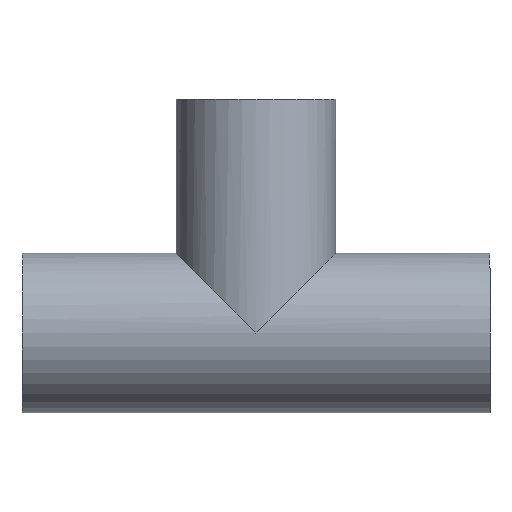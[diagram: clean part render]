
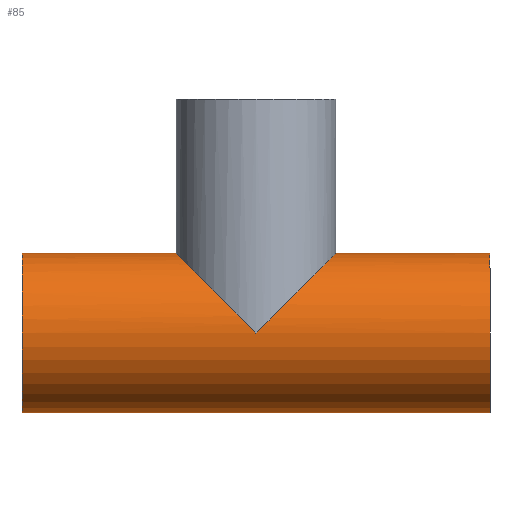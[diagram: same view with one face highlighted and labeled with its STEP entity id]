
A CAD part, front view. The second image highlights one B-rep face of the part: STEP entity #85.
In plain terms, the highlighted cylindrical face has radius 20.5 mm (diameter 41 mm), a full revolution.
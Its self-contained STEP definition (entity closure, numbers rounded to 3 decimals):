
#21 = EDGE_CURVE('',#22,#22,#24,.T.);
#22 = VERTEX_POINT('',#23);
#23 = CARTESIAN_POINT('',(-60.,0.,-20.5));
#24 = SURFACE_CURVE('',#25,(#30,#42),.PCURVE_S1.);
#25 = CIRCLE('',#26,20.5);
#26 = AXIS2_PLACEMENT_3D('',#27,#28,#29);
#27 = CARTESIAN_POINT('',(-60.,0.,0.));
#28 = DIRECTION('',(1.,-0.,0.));
#29 = DIRECTION('',(0.,0.,-1.));
#30 = PCURVE('',#31,#36);
#31 = PLANE('',#32);
#32 = AXIS2_PLACEMENT_3D('',#33,#34,#35);
#33 = CARTESIAN_POINT('',(-60.,0.,0.));
#34 = DIRECTION('',(1.,0.,0.));
#35 = DIRECTION('',(0.,0.,-1.));
#36 = DEFINITIONAL_REPRESENTATION('',(#37),#41);
#37 = CIRCLE('',#38,20.5);
#38 = AXIS2_PLACEMENT_2D('',#39,#40);
#39 = CARTESIAN_POINT('',(0.,0.));
#40 = DIRECTION('',(1.,0.));
#41 = ( GEOMETRIC_REPRESENTATION_CONTEXT(2) 
PARAMETRIC_REPRESENTATION_CONTEXT() REPRESENTATION_CONTEXT('2D SPACE',''
  ) );
#42 = PCURVE('',#43,#48);
#43 = CYLINDRICAL_SURFACE('',#44,20.5);
#44 = AXIS2_PLACEMENT_3D('',#45,#46,#47);
#45 = CARTESIAN_POINT('',(-60.,0.,0.));
#46 = DIRECTION('',(1.,0.,0.));
#47 = DIRECTION('',(0.,0.,-1.));
#48 = DEFINITIONAL_REPRESENTATION('',(#49),#53);
#49 = LINE('',#50,#51);
#50 = CARTESIAN_POINT('',(0.,0.));
#51 = VECTOR('',#52,1.);
#52 = DIRECTION('',(1.,0.));
#53 = ( GEOMETRIC_REPRESENTATION_CONTEXT(2) 
PARAMETRIC_REPRESENTATION_CONTEXT() REPRESENTATION_CONTEXT('2D SPACE',''
  ) );
#85 = ADVANCED_FACE('',(#86,#140),#43,.T.);
#86 = FACE_BOUND('',#87,.T.);
#87 = EDGE_LOOP('',(#88,#111,#138,#139));
#88 = ORIENTED_EDGE('',*,*,#89,.T.);
#89 = EDGE_CURVE('',#22,#90,#92,.T.);
#90 = VERTEX_POINT('',#91);
#91 = CARTESIAN_POINT('',(60.,0.,-20.5));
#92 = SEAM_CURVE('',#93,(#97,#104),.PCURVE_S1.);
#93 = LINE('',#94,#95);
#94 = CARTESIAN_POINT('',(-60.,0.,-20.5));
#95 = VECTOR('',#96,1.);
#96 = DIRECTION('',(1.,0.,0.));
#97 = PCURVE('',#43,#98);
#98 = DEFINITIONAL_REPRESENTATION('',(#99),#103);
#99 = LINE('',#100,#101);
#100 = CARTESIAN_POINT('',(6.283,-0.));
#101 = VECTOR('',#102,1.);
#102 = DIRECTION('',(0.,1.));
#103 = ( GEOMETRIC_REPRESENTATION_CONTEXT(2) 
PARAMETRIC_REPRESENTATION_CONTEXT() REPRESENTATION_CONTEXT('2D SPACE',''
  ) );
#104 = PCURVE('',#43,#105);
#105 = DEFINITIONAL_REPRESENTATION('',(#106),#110);
#106 = LINE('',#107,#108);
#107 = CARTESIAN_POINT('',(0.,-0.));
#108 = VECTOR('',#109,1.);
#109 = DIRECTION('',(0.,1.));
#110 = ( GEOMETRIC_REPRESENTATION_CONTEXT(2) 
PARAMETRIC_REPRESENTATION_CONTEXT() REPRESENTATION_CONTEXT('2D SPACE',''
  ) );
#111 = ORIENTED_EDGE('',*,*,#112,.F.);
#112 = EDGE_CURVE('',#90,#90,#113,.T.);
#113 = SURFACE_CURVE('',#114,(#119,#126),.PCURVE_S1.);
#114 = CIRCLE('',#115,20.5);
#115 = AXIS2_PLACEMENT_3D('',#116,#117,#118);
#116 = CARTESIAN_POINT('',(60.,0.,0.));
#117 = DIRECTION('',(1.,-0.,0.));
#118 = DIRECTION('',(0.,0.,-1.));
#119 = PCURVE('',#43,#120);
#120 = DEFINITIONAL_REPRESENTATION('',(#121),#125);
#121 = LINE('',#122,#123);
#122 = CARTESIAN_POINT('',(0.,120.));
#123 = VECTOR('',#124,1.);
#124 = DIRECTION('',(1.,0.));
#125 = ( GEOMETRIC_REPRESENTATION_CONTEXT(2) 
PARAMETRIC_REPRESENTATION_CONTEXT() REPRESENTATION_CONTEXT('2D SPACE',''
  ) );
#126 = PCURVE('',#127,#132);
#127 = PLANE('',#128);
#128 = AXIS2_PLACEMENT_3D('',#129,#130,#131);
#129 = CARTESIAN_POINT('',(60.,0.,0.));
#130 = DIRECTION('',(1.,0.,0.));
#131 = DIRECTION('',(0.,0.,-1.));
#132 = DEFINITIONAL_REPRESENTATION('',(#133),#137);
#133 = CIRCLE('',#134,20.5);
#134 = AXIS2_PLACEMENT_2D('',#135,#136);
#135 = CARTESIAN_POINT('',(0.,0.));
#136 = DIRECTION('',(1.,0.));
#137 = ( GEOMETRIC_REPRESENTATION_CONTEXT(2) 
PARAMETRIC_REPRESENTATION_CONTEXT() REPRESENTATION_CONTEXT('2D SPACE',''
  ) );
#138 = ORIENTED_EDGE('',*,*,#89,.F.);
#139 = ORIENTED_EDGE('',*,*,#21,.T.);
#140 = FACE_BOUND('',#141,.T.);
#141 = EDGE_LOOP('',(#142,#189,#225));
#142 = ORIENTED_EDGE('',*,*,#143,.F.);
#143 = EDGE_CURVE('',#144,#146,#148,.T.);
#144 = VERTEX_POINT('',#145);
#145 = CARTESIAN_POINT('',(0.,20.5,0.));
#146 = VERTEX_POINT('',#147);
#147 = CARTESIAN_POINT('',(0.,-20.5,0.));
#148 = SURFACE_CURVE('',#149,(#154,#169),.PCURVE_S1.);
#149 = ELLIPSE('',#150,28.991,20.5);
#150 = AXIS2_PLACEMENT_3D('',#151,#152,#153);
#151 = CARTESIAN_POINT('',(0.,0.,0.));
#152 = DIRECTION('',(0.707,-0.,0.707));
#153 = DIRECTION('',(0.707,0.,-0.707));
#154 = PCURVE('',#43,#155);
#155 = DEFINITIONAL_REPRESENTATION('',(#156),#168);
#156 = B_SPLINE_CURVE_WITH_KNOTS('',10,(#157,#158,#159,#160,#161,#162,
    #163,#164,#165,#166,#167),.UNSPECIFIED.,.F.,.F.,(11,11),(
    1.571,4.712),.PIECEWISE_BEZIER_KNOTS.);
#157 = CARTESIAN_POINT('',(1.571,60.));
#158 = CARTESIAN_POINT('',(1.885,53.56));
#159 = CARTESIAN_POINT('',(2.199,47.119));
#160 = CARTESIAN_POINT('',(2.513,41.562));
#161 = CARTESIAN_POINT('',(2.827,37.77));
#162 = CARTESIAN_POINT('',(3.142,36.419));
#163 = CARTESIAN_POINT('',(3.456,37.77));
#164 = CARTESIAN_POINT('',(3.77,41.562));
#165 = CARTESIAN_POINT('',(4.084,47.119));
#166 = CARTESIAN_POINT('',(4.398,53.56));
#167 = CARTESIAN_POINT('',(4.712,60.));
#168 = ( GEOMETRIC_REPRESENTATION_CONTEXT(2) 
PARAMETRIC_REPRESENTATION_CONTEXT() REPRESENTATION_CONTEXT('2D SPACE',''
  ) );
#169 = PCURVE('',#170,#175);
#170 = CYLINDRICAL_SURFACE('',#171,20.5);
#171 = AXIS2_PLACEMENT_3D('',#172,#173,#174);
#172 = CARTESIAN_POINT('',(0.,0.,0.));
#173 = DIRECTION('',(0.,0.,1.));
#174 = DIRECTION('',(1.,0.,0.));
#175 = DEFINITIONAL_REPRESENTATION('',(#176),#188);
#176 = B_SPLINE_CURVE_WITH_KNOTS('',10,(#177,#178,#179,#180,#181,#182,
    #183,#184,#185,#186,#187),.UNSPECIFIED.,.F.,.F.,(11,11),(
    1.571,4.712),.PIECEWISE_BEZIER_KNOTS.);
#177 = CARTESIAN_POINT('',(1.571,0.));
#178 = CARTESIAN_POINT('',(1.885,6.44));
#179 = CARTESIAN_POINT('',(2.199,12.881));
#180 = CARTESIAN_POINT('',(2.513,18.438));
#181 = CARTESIAN_POINT('',(2.827,22.23));
#182 = CARTESIAN_POINT('',(3.142,23.581));
#183 = CARTESIAN_POINT('',(3.456,22.23));
#184 = CARTESIAN_POINT('',(3.77,18.438));
#185 = CARTESIAN_POINT('',(4.084,12.881));
#186 = CARTESIAN_POINT('',(4.398,6.44));
#187 = CARTESIAN_POINT('',(4.712,0.));
#188 = ( GEOMETRIC_REPRESENTATION_CONTEXT(2) 
PARAMETRIC_REPRESENTATION_CONTEXT() REPRESENTATION_CONTEXT('2D SPACE',''
  ) );
#189 = ORIENTED_EDGE('',*,*,#190,.T.);
#190 = EDGE_CURVE('',#144,#191,#193,.T.);
#191 = VERTEX_POINT('',#192);
#192 = CARTESIAN_POINT('',(20.5,0.,20.5));
#193 = SURFACE_CURVE('',#194,(#199,#212),.PCURVE_S1.);
#194 = ELLIPSE('',#195,28.991,20.5);
#195 = AXIS2_PLACEMENT_3D('',#196,#197,#198);
#196 = CARTESIAN_POINT('',(0.,0.,0.));
#197 = DIRECTION('',(0.707,0.,-0.707));
#198 = DIRECTION('',(0.707,0.,0.707));
#199 = PCURVE('',#43,#200);
#200 = DEFINITIONAL_REPRESENTATION('',(#201),#211);
#201 = B_SPLINE_CURVE_WITH_KNOTS('',8,(#202,#203,#204,#205,#206,#207,
    #208,#209,#210),.UNSPECIFIED.,.F.,.F.,(9,9),(4.712,
    6.283),.PIECEWISE_BEZIER_KNOTS.);
#202 = CARTESIAN_POINT('',(1.571,60.));
#203 = CARTESIAN_POINT('',(1.767,64.025));
#204 = CARTESIAN_POINT('',(1.963,68.05));
#205 = CARTESIAN_POINT('',(2.16,71.839));
#206 = CARTESIAN_POINT('',(2.356,75.155));
#207 = CARTESIAN_POINT('',(2.553,77.79));
#208 = CARTESIAN_POINT('',(2.749,79.597));
#209 = CARTESIAN_POINT('',(2.945,80.5));
#210 = CARTESIAN_POINT('',(3.142,80.5));
#211 = ( GEOMETRIC_REPRESENTATION_CONTEXT(2) 
PARAMETRIC_REPRESENTATION_CONTEXT() REPRESENTATION_CONTEXT('2D SPACE',''
  ) );
#212 = PCURVE('',#170,#213);
#213 = DEFINITIONAL_REPRESENTATION('',(#214),#224);
#214 = B_SPLINE_CURVE_WITH_KNOTS('',8,(#215,#216,#217,#218,#219,#220,
    #221,#222,#223),.UNSPECIFIED.,.F.,.F.,(9,9),(4.712,
    6.283),.PIECEWISE_BEZIER_KNOTS.);
#215 = CARTESIAN_POINT('',(1.571,0.));
#216 = CARTESIAN_POINT('',(1.374,4.025));
#217 = CARTESIAN_POINT('',(1.178,8.05));
#218 = CARTESIAN_POINT('',(0.982,11.839));
#219 = CARTESIAN_POINT('',(0.785,15.155));
#220 = CARTESIAN_POINT('',(0.589,17.79));
#221 = CARTESIAN_POINT('',(0.393,19.597));
#222 = CARTESIAN_POINT('',(0.196,20.5));
#223 = CARTESIAN_POINT('',(0.,20.5));
#224 = ( GEOMETRIC_REPRESENTATION_CONTEXT(2) 
PARAMETRIC_REPRESENTATION_CONTEXT() REPRESENTATION_CONTEXT('2D SPACE',''
  ) );
#225 = ORIENTED_EDGE('',*,*,#226,.T.);
#226 = EDGE_CURVE('',#191,#146,#227,.T.);
#227 = SURFACE_CURVE('',#228,(#233,#246),.PCURVE_S1.);
#228 = ELLIPSE('',#229,28.991,20.5);
#229 = AXIS2_PLACEMENT_3D('',#230,#231,#232);
#230 = CARTESIAN_POINT('',(0.,0.,0.));
#231 = DIRECTION('',(0.707,0.,-0.707));
#232 = DIRECTION('',(0.707,0.,0.707));
#233 = PCURVE('',#43,#234);
#234 = DEFINITIONAL_REPRESENTATION('',(#235),#245);
#235 = B_SPLINE_CURVE_WITH_KNOTS('',8,(#236,#237,#238,#239,#240,#241,
    #242,#243,#244),.UNSPECIFIED.,.F.,.F.,(9,9),(0.,1.571),
  .PIECEWISE_BEZIER_KNOTS.);
#236 = CARTESIAN_POINT('',(3.142,80.5));
#237 = CARTESIAN_POINT('',(3.338,80.5));
#238 = CARTESIAN_POINT('',(3.534,79.597));
#239 = CARTESIAN_POINT('',(3.731,77.79));
#240 = CARTESIAN_POINT('',(3.927,75.155));
#241 = CARTESIAN_POINT('',(4.123,71.839));
#242 = CARTESIAN_POINT('',(4.32,68.05));
#243 = CARTESIAN_POINT('',(4.516,64.025));
#244 = CARTESIAN_POINT('',(4.712,60.));
#245 = ( GEOMETRIC_REPRESENTATION_CONTEXT(2) 
PARAMETRIC_REPRESENTATION_CONTEXT() REPRESENTATION_CONTEXT('2D SPACE',''
  ) );
#246 = PCURVE('',#170,#247);
#247 = DEFINITIONAL_REPRESENTATION('',(#248),#258);
#248 = B_SPLINE_CURVE_WITH_KNOTS('',8,(#249,#250,#251,#252,#253,#254,
    #255,#256,#257),.UNSPECIFIED.,.F.,.F.,(9,9),(0.,1.571),
  .PIECEWISE_BEZIER_KNOTS.);
#249 = CARTESIAN_POINT('',(6.283,20.5));
#250 = CARTESIAN_POINT('',(6.087,20.5));
#251 = CARTESIAN_POINT('',(5.89,19.597));
#252 = CARTESIAN_POINT('',(5.694,17.79));
#253 = CARTESIAN_POINT('',(5.498,15.155));
#254 = CARTESIAN_POINT('',(5.301,11.839));
#255 = CARTESIAN_POINT('',(5.105,8.05));
#256 = CARTESIAN_POINT('',(4.909,4.025));
#257 = CARTESIAN_POINT('',(4.712,0.));
#258 = ( GEOMETRIC_REPRESENTATION_CONTEXT(2) 
PARAMETRIC_REPRESENTATION_CONTEXT() REPRESENTATION_CONTEXT('2D SPACE',''
  ) );
